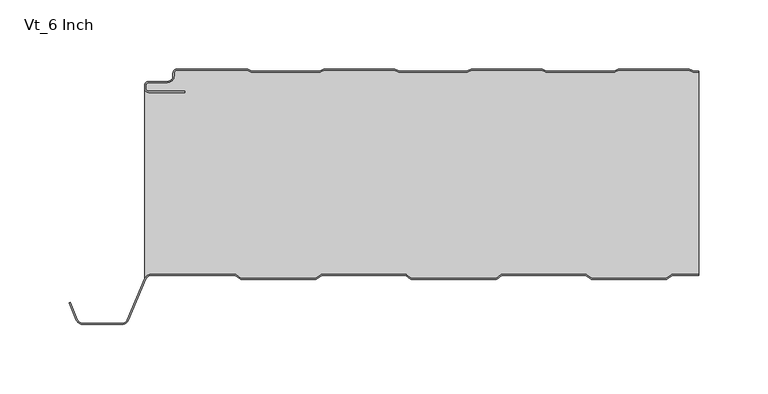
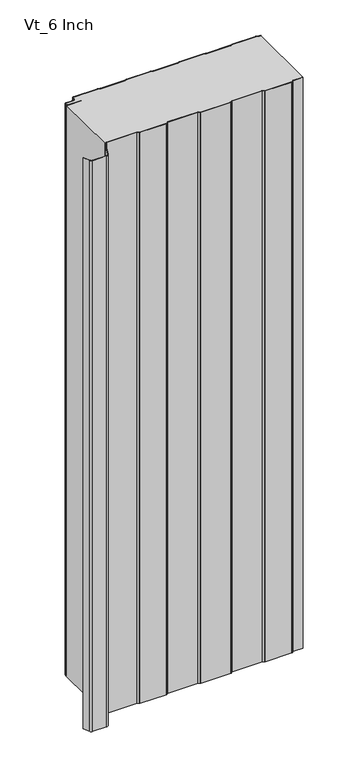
"""IFC4 building model written with IfcOpenShell, lengths in millimetres: plate geometry, AWIP_R18_CP_HR3_Vt_Roof Panel : Vt_6 Inch."""

import ifcopenshell
import ifcopenshell.guid

model = None  # the IFC model being written
_history = None  # IfcOwnerHistory: only IFC2X3 demands one
_inside = {}  # id of a spatial element -> (the spatial element, [elements in it])
_under = {}  # id of a project, library or spatial element -> (it, [spatial elements below it])
_declared = {}  # id of a project -> (the project, [libraries it declares])
_typed = {}  # id of a type object -> (the type object, [elements of that type])
_made_of = {}  # id of a material, layer set ... -> (it, [elements and type objects made of it])


def new_model(schema):
    """Start an empty IFC model of exactly this schema.

    Asked for "IFC4X3", IfcOpenShell would pick the latest addendum, in which some entities
    have other attributes; the version numbers below select the first issue.
    IFC2X3 requires an IfcOwnerHistory on every rooted entity: one is made here for all.
    """
    global model, _history
    if schema == "IFC4X3":
        model = ifcopenshell.file(schema_version=(4, 3, 0, 0))
    else:
        model = ifcopenshell.file(schema=schema)
    _inside.clear()
    _under.clear()
    _declared.clear()
    _typed.clear()
    _made_of.clear()
    _history = None
    if model.schema == "IFC2X3":
        org = make("IfcOrganization", Name="unknown")
        user = make(
            "IfcPersonAndOrganization",
            ThePerson=make("IfcPerson", FamilyName="unknown"),
            TheOrganization=org,
        )
        app = make(
            "IfcApplication",
            ApplicationDeveloper=org,
            Version="unknown",
            ApplicationFullName="unknown",
            ApplicationIdentifier="unknown",
        )
        _history = make(
            "IfcOwnerHistory",
            OwningUser=user,
            OwningApplication=app,
            ChangeAction="ADDED",
            CreationDate=0,
        )
    return model


def make(cls, **values):
    """One entity of the class cls with the attributes given. An attribute that is None is left unset."""
    return model.create_entity(
        cls, **{name: value for name, value in values.items() if value is not None}
    )


def rooted(cls, **values):
    """An entity with a GlobalId (a new one), such as an element, a storey or a relation."""
    return make(cls, GlobalId=ifcopenshell.guid.new(), OwnerHistory=_history, **values)


def si_unit(unit_type, name, prefix=None):
    """IfcSIUnit, for example si_unit("LENGTHUNIT", "METRE", prefix="MILLI")."""
    return make("IfcSIUnit", UnitType=unit_type, Prefix=prefix, Name=name)


def assignment(units):
    """IfcUnitAssignment: the units of a project."""
    return None if units is None else make("IfcUnitAssignment", Units=units)


def point(xyz):
    """IfcCartesianPoint."""
    return None if xyz is None else make("IfcCartesianPoint", Coordinates=xyz)


def direction(xyz):
    """IfcDirection."""
    return None if xyz is None else make("IfcDirection", DirectionRatios=xyz)


def frame(location, z_axis=None, x_axis=None):
    """IfcAxis2Placement3D, a coordinate frame: its origin and axes. An axis left out is left unset."""
    return make(
        "IfcAxis2Placement3D",
        Location=point(location),
        Axis=direction(z_axis),
        RefDirection=direction(x_axis),
    )


def frame_2d(location, x_axis=None):
    """IfcAxis2Placement2D, a coordinate frame in the plane: its origin and x axis."""
    return make(
        "IfcAxis2Placement2D", Location=point(location), RefDirection=direction(x_axis)
    )


def origin():
    """The frame at (0, 0, 0) with its axes left unset."""
    return frame((0.0, 0.0, 0.0))


def origin_with_axes():
    """The frame at (0, 0, 0) with the z axis (0, 0, 1) and the x axis (1, 0, 0) written out."""
    return frame((0.0, 0.0, 0.0), z_axis=(0.0, 0.0, 1.0), x_axis=(1.0, 0.0, 0.0))


def place(relative_to, where):
    """IfcLocalPlacement: puts the frame where relative to a parent placement (None: the world)."""
    return make(
        "IfcLocalPlacement", PlacementRelTo=relative_to, RelativePlacement=where
    )


def context(
    kind, dimensions, precision=None, world=None, true_north=None, identifier=None
):
    """IfcGeometricRepresentationContext, for example the 3D "Model" context."""
    return make(
        "IfcGeometricRepresentationContext",
        ContextIdentifier=identifier,
        ContextType=kind,
        CoordinateSpaceDimension=dimensions,
        Precision=precision,
        WorldCoordinateSystem=world,
        TrueNorth=true_north,
    )


def project(units=None, contexts=None):
    """IfcProject with its units and contexts."""
    return rooted(
        "IfcProject",
        Name="project",
        RepresentationContexts=contexts,
        UnitsInContext=assignment(units),
    )


def spatial(cls, under=None, at=None, **own):
    """A site, building, storey or space (cls), placed at a placement, below another one or the project."""
    s = rooted(cls, ObjectPlacement=at, **own)
    if under is not None:
        _under.setdefault(under.id(), (under, []))[1].append(s)
    return s


def polyline(points):
    """IfcPolyline through the points."""
    return make("IfcPolyline", Points=[point(p) for p in points])


def circle_curve(where, radius):
    """IfcCircle in the frame where."""
    return make("IfcCircle", Position=where, Radius=radius)


def trimmed(basis, trim1, trim2, sense, master):
    """IfcTrimmedCurve: the piece of a basis curve between two trims."""
    return make(
        "IfcTrimmedCurve",
        BasisCurve=basis,
        Trim1=trim1,
        Trim2=trim2,
        SenseAgreement=sense,
        MasterRepresentation=master,
    )


def segment(curve, same_sense, transition):
    """IfcCompositeCurveSegment."""
    return make(
        "IfcCompositeCurveSegment",
        Transition=transition,
        SameSense=same_sense,
        ParentCurve=curve,
    )


def composite_curve(segments, self_intersect=None):
    """IfcCompositeCurve: segments joined end to end."""
    return make("IfcCompositeCurve", Segments=segments, SelfIntersect=self_intersect)


def outline(outer, holes=None, kind="AREA"):
    """IfcArbitraryClosedProfileDef: a profile drawn as a closed curve; with holes, ...WithVoids."""
    if holes is None:
        return make("IfcArbitraryClosedProfileDef", ProfileType=kind, OuterCurve=outer)
    return make(
        "IfcArbitraryProfileDefWithVoids",
        ProfileType=kind,
        OuterCurve=outer,
        InnerCurves=holes,
    )


def extrude(swept, where, along, depth):
    """IfcExtrudedAreaSolid: the profile swept, set in the frame where, extruded along a direction by depth."""
    return make(
        "IfcExtrudedAreaSolid",
        SweptArea=swept,
        Position=where,
        ExtrudedDirection=direction(along),
        Depth=depth,
    )


def shape(context_of_items, identifier, shape_type, items):
    """IfcShapeRepresentation: the items that make up one representation, for example the "Body"."""
    return make(
        "IfcShapeRepresentation",
        ContextOfItems=context_of_items,
        RepresentationIdentifier=identifier,
        RepresentationType=shape_type,
        Items=items,
    )


def source(mapping_origin, context_of_items, identifier, shape_type, items):
    """IfcRepresentationMap: a shape defined once, which mapped items show again and again."""
    return make(
        "IfcRepresentationMap",
        MappingOrigin=mapping_origin,
        MappedRepresentation=shape(context_of_items, identifier, shape_type, items),
    )


def transform(
    local_origin,
    x_axis=None,
    y_axis=None,
    z_axis=None,
    scale=None,
    scale2=None,
    scale3=None,
    uniform=True,
):
    """IfcCartesianTransformationOperator3D, or its non-uniform kind. x_axis, y_axis, z_axis: its Axis1, 2, 3."""
    if uniform:
        return make(
            "IfcCartesianTransformationOperator3D",
            Axis1=direction(x_axis),
            Axis2=direction(y_axis),
            LocalOrigin=point(local_origin),
            Scale=scale,
            Axis3=direction(z_axis),
        )
    return make(
        "IfcCartesianTransformationOperator3DnonUniform",
        Axis1=direction(x_axis),
        Axis2=direction(y_axis),
        LocalOrigin=point(local_origin),
        Scale=scale,
        Axis3=direction(z_axis),
        Scale2=scale2,
        Scale3=scale3,
    )


def mapped(mapping_source, mapping_target):
    """IfcMappedItem: shows the shape of a source again, moved by a transform."""
    return make(
        "IfcMappedItem", MappingSource=mapping_source, MappingTarget=mapping_target
    )


def made_of(thing, what):
    """Note that an element or type object is made of a material, layer set ...; save() writes the relation."""
    if what is not None:
        _made_of.setdefault(what.id(), (what, []))[1].append(thing)
    return thing


def element(
    cls,
    number,
    at=None,
    inside=None,
    cuts=None,
    type_object=None,
    material=None,
    context=None,
    identifier="Body",
    shape_type=None,
    held_by="IfcProductDefinitionShape",
    body=None,
    shapes=None,
    **own,
):
    """One element of the class cls, such as IfcWall. Its Tag is "e" and its number.

    at: its placement. inside: the storey or other place that contains it. cuts: it is an
    opening in that element (IfcRelVoidsElement). A single representation is given by context,
    identifier, shape_type and body (its items); several are given by shapes. held_by: the class
    of the entity that holds the representations. save() writes the other relations.
    """
    e = rooted(cls, Tag="e%d" % number, ObjectPlacement=at, **own)
    if body is not None:
        shapes = [shape(context, identifier, shape_type, body)]
    if shapes is not None:
        e.Representation = make(held_by, Representations=shapes)
    if inside is not None:
        _inside.setdefault(inside.id(), (inside, []))[1].append(e)
    if cuts is not None:
        rooted(
            "IfcRelVoidsElement", RelatingBuildingElement=cuts, RelatedOpeningElement=e
        )
    if type_object is not None:
        _typed.setdefault(type_object.id(), (type_object, []))[1].append(e)
    return made_of(e, material)


def aggregate(whole, parts):
    """IfcRelAggregates: a whole, such as a stair, and the parts it consists of."""
    return rooted("IfcRelAggregates", RelatingObject=whole, RelatedObjects=parts)


def save(model, path):
    """Write the relations noted so far, then the file.

    IfcRelAggregates (storeys below a building ...), IfcRelContainedInSpatialStructure (elements
    in a storey), IfcRelDefinesByType, IfcRelAssociatesMaterial and IfcRelDeclares: one each for
    every whole, place, type object, material and project.
    """
    for whole, parts in _under.values():
        aggregate(whole, parts)
    for where, things in _inside.values():
        rooted(
            "IfcRelContainedInSpatialStructure",
            RelatedElements=things,
            RelatingStructure=where,
        )
    for kind, things in _typed.values():
        rooted("IfcRelDefinesByType", RelatedObjects=things, RelatingType=kind)
    for what, things in _made_of.values():
        rooted("IfcRelAssociatesMaterial", RelatedObjects=things, RelatingMaterial=what)
    for by, libraries in _declared.values():
        rooted("IfcRelDeclares", RelatingContext=by, RelatedDefinitions=libraries)
    model.write(path)


def plane_surface(at):
    """IfcPlane: the flat surface through the origin of the frame at, square to its z axis."""
    return make("IfcPlane", Position=at)


def cylinder_surface(at, radius):
    """IfcCylindricalSurface: all points at the distance radius from the z axis of the frame at."""
    return make("IfcCylindricalSurface", Position=at, Radius=radius)


def revolved_surface(curve, axis_point, axis_direction):
    """IfcSurfaceOfRevolution: the curve turned about the line through axis_point along axis_direction."""
    return make(
        "IfcSurfaceOfRevolution",
        SweptCurve=make("IfcArbitraryOpenProfileDef", ProfileType="CURVE", Curve=curve),
        AxisPosition=make("IfcAxis1Placement", Location=point(axis_point), Axis=direction(axis_direction)),
    )


def advanced_brep(points, edges, surfaces, faces):
    """IfcAdvancedBrep: a solid bounded by faces that lie on surfaces and meet in shared edges.

    An edge is (start, end): straight between two places in points (the first is 0);
    or (start, end, curve); or (start, end, curve, False) where it runs against its curve.
    A face is (place in surfaces, loops), or (place, loops, False) where it looks against
    its surface's normal. A loop lists edges by number (the first is 1), with a minus sign
    where the edge is run from its end to its start. The first loop is the outer one.
    """
    corners = [point(p) for p in points]
    vertices = [make("IfcVertexPoint", VertexGeometry=c) for c in corners]
    made = []
    for start, end, *more in edges:
        made.append(
            make(
                "IfcEdgeCurve",
                EdgeStart=vertices[start],
                EdgeEnd=vertices[end],
                EdgeGeometry=more[0] if more else make("IfcPolyline", Points=[corners[start], corners[end]]),
                SameSense=more[1] if len(more) > 1 else True,
            )
        )
    hull = []
    for where, loops, *sense in faces:
        bounds = []
        for j, loop in enumerate(loops):
            ring = [make("IfcOrientedEdge", EdgeElement=made[abs(k) - 1], Orientation=k > 0) for k in loop]
            bounds.append(
                make(
                    "IfcFaceOuterBound" if j == 0 else "IfcFaceBound",
                    Bound=make("IfcEdgeLoop", EdgeList=ring),
                    Orientation=True,
                )
            )
        hull.append(make("IfcAdvancedFace", Bounds=bounds, FaceSurface=surfaces[where], SameSense=sense[0] if sense else True))
    return make("IfcAdvancedBrep", Outer=make("IfcClosedShell", CfsFaces=hull))


def vt_6_inch_240a4d56(model_context):
    return source(origin(), model_context, "Body", "SolidModel", [
        extrude(outline(composite_curve([segment(polyline([(212.4037368, -1.5), (215.9042607, -1.5), (215.9042607, -2.3), (212.4037368, -2.3)]), True, "CONTINUOUS"), segment(trimmed(circle_curve(frame_2d((212.4037368, 1.0)), 3.3), [point((212.4037368, -2.3))], [point((211.0949824, -2.0293831))], False, "CARTESIAN"), True, "CONTINUOUS"), segment(polyline([(211.0949824, -2.0293831), (208.7048832, -0.9968123)]), True, "CONTINUOUS"), segment(trimmed(circle_curve(frame_2d((207.7530619, -3.2)), 2.4), [point((208.7048832, -0.9968123))], [point((207.7530619, -0.8))], True, "CARTESIAN"), True, "CONTINUOUS"), segment(polyline([(207.7530619, -0.8), (158.8384168, -0.8)]), True, "CONTINUOUS"), segment(trimmed(circle_curve(frame_2d((158.8384168, -3.2)), 2.4), [point((158.8384168, -0.8))], [point((157.8865954, -0.9968123))], True, "CARTESIAN"), True, "CONTINUOUS"), segment(polyline([(157.8865954, -0.9968123), (155.4964962, -2.0293831)]), True, "CONTINUOUS"), segment(trimmed(circle_curve(frame_2d((154.1877419, 1.0)), 3.3), [point((155.4964962, -2.0293831))], [point((154.1877419, -2.3))], False, "CARTESIAN"), True, "CONTINUOUS"), segment(polyline([(154.1877419, -2.3), (105.8037368, -2.3)]), True, "CONTINUOUS"), segment(trimmed(circle_curve(frame_2d((105.8037368, 1.0)), 3.3), [point((105.8037368, -2.3))], [point((104.4949824, -2.0293831))], False, "CARTESIAN"), True, "CONTINUOUS"), segment(polyline([(104.4949824, -2.0293831), (102.1048832, -0.9968123)]), True, "CONTINUOUS"), segment(trimmed(circle_curve(frame_2d((101.1530619, -3.2)), 2.4), [point((102.1048832, -0.9968123))], [point((101.1530619, -0.8))], True, "CARTESIAN"), True, "CONTINUOUS"), segment(polyline([(101.1530619, -0.8), (52.2384168, -0.8)]), True, "CONTINUOUS"), segment(trimmed(circle_curve(frame_2d((52.2384168, -3.2)), 2.4), [point((52.2384168, -0.8))], [point((51.2865954, -0.9968123))], True, "CARTESIAN"), True, "CONTINUOUS"), segment(polyline([(51.2865954, -0.9968123), (48.8964962, -2.0293831)]), True, "CONTINUOUS"), segment(trimmed(circle_curve(frame_2d((47.5877419, 1.0)), 3.3), [point((48.8964962, -2.0293831))], [point((47.5877419, -2.3))], False, "CARTESIAN"), True, "CONTINUOUS"), segment(polyline([(47.5877419, -2.3), (-0.7962632, -2.3)]), True, "CONTINUOUS"), segment(trimmed(circle_curve(frame_2d((-0.7962632, 1.0)), 3.3), [point((-0.7962632, -2.3))], [point((-2.1050176, -2.0293831))], False, "CARTESIAN"), True, "CONTINUOUS"), segment(polyline([(-2.1050176, -2.0293831), (-4.4951168, -0.9968123)]), True, "CONTINUOUS"), segment(trimmed(circle_curve(frame_2d((-5.4469381, -3.2)), 2.4), [point((-4.4951168, -0.9968123))], [point((-5.4469381, -0.8))], True, "CARTESIAN"), True, "CONTINUOUS"), segment(polyline([(-5.4469381, -0.8), (-54.3615832, -0.8)]), True, "CONTINUOUS"), segment(trimmed(circle_curve(frame_2d((-54.3615832, -3.2)), 2.4), [point((-54.3615832, -0.8))], [point((-55.3134046, -0.9968123))], True, "CARTESIAN"), True, "CONTINUOUS"), segment(polyline([(-55.3134046, -0.9968123), (-57.7035038, -2.0293831)]), True, "CONTINUOUS"), segment(trimmed(circle_curve(frame_2d((-59.0122581, 1.0)), 3.3), [point((-57.7035038, -2.0293831))], [point((-59.0122581, -2.3))], False, "CARTESIAN"), True, "CONTINUOUS"), segment(polyline([(-59.0122581, -2.3), (-107.3962632, -2.3)]), True, "CONTINUOUS"), segment(trimmed(circle_curve(frame_2d((-107.3962632, 1.0)), 3.3), [point((-107.3962632, -2.3))], [point((-108.7050176, -2.0293831))], False, "CARTESIAN"), True, "CONTINUOUS"), segment(polyline([(-108.7050176, -2.0293831), (-111.0951168, -0.9968123)]), True, "CONTINUOUS"), segment(trimmed(circle_curve(frame_2d((-112.0469381, -3.2)), 2.4), [point((-111.0951168, -0.9968123))], [point((-112.0469381, -0.8))], True, "CARTESIAN"), True, "CONTINUOUS"), segment(polyline([(-112.0469381, -0.8), (-161.8042607, -0.8)]), True, "CONTINUOUS"), segment(trimmed(circle_curve(frame_2d((-161.8042607, -3.0)), 2.2), [point((-161.8042607, -0.8))], [point((-164.0042607, -3.0))], True, "CARTESIAN"), True, "CONTINUOUS"), segment(polyline([(-164.0042607, -3.0), (-164.0042607, -5.0)]), True, "CONTINUOUS"), segment(trimmed(circle_curve(frame_2d((-168.8042607, -5.0)), 4.8), [point((-164.0042607, -5.0))], [point((-168.8042607, -9.8))], False, "CARTESIAN"), True, "CONTINUOUS"), segment(polyline([(-168.8042607, -9.8), (-182.3200708, -9.8)]), True, "CONTINUOUS"), segment(trimmed(circle_curve(frame_2d((-182.3200708, -12.0)), 2.2), [point((-182.3200708, -9.8))], [point((-184.5200708, -12.0))], True, "CARTESIAN"), True, "CONTINUOUS"), segment(polyline([(-184.5200708, -12.0), (-184.5200708, -14.0)]), True, "CONTINUOUS"), segment(trimmed(circle_curve(frame_2d((-182.3200708, -14.0)), 2.2), [point((-184.5200708, -14.0))], [point((-182.3200708, -16.2))], True, "CARTESIAN"), True, "CONTINUOUS"), segment(polyline([(-182.3200708, -16.2), (-156.3790289, -16.2), (-156.3790289, -17.0), (-182.3200708, -17.0)]), True, "CONTINUOUS"), segment(trimmed(circle_curve(frame_2d((-182.3200708, -14.0)), 3.0), [point((-182.3200708, -17.0))], [point((-185.3200708, -14.0))], False, "CARTESIAN"), True, "CONTINUOUS"), segment(polyline([(-185.3200708, -14.0), (-185.3200708, -12.0)]), True, "CONTINUOUS"), segment(trimmed(circle_curve(frame_2d((-182.3200708, -12.0)), 3.0), [point((-185.3200708, -12.0))], [point((-182.3200708, -9.0))], False, "CARTESIAN"), True, "CONTINUOUS"), segment(polyline([(-182.3200708, -9.0), (-168.8042607, -9.0)]), True, "CONTINUOUS"), segment(trimmed(circle_curve(frame_2d((-168.8042607, -5.0)), 4.0), [point((-168.8042607, -9.0))], [point((-164.8042607, -5.0))], True, "CARTESIAN"), True, "CONTINUOUS"), segment(polyline([(-164.8042607, -5.0), (-164.8042607, -3.0)]), True, "CONTINUOUS"), segment(trimmed(circle_curve(frame_2d((-161.8042607, -3.0)), 3.0), [point((-164.8042607, -3.0))], [point((-161.8042607, 0.0))], False, "CARTESIAN"), True, "CONTINUOUS"), segment(polyline([(-161.8042607, 0.0), (-112.0469381, 0.0)]), True, "CONTINUOUS"), segment(trimmed(circle_curve(frame_2d((-112.0469381, -3.2)), 3.2), [point((-112.0469381, 0.0))], [point((-110.777843, -0.2624164))], False, "CARTESIAN"), True, "CONTINUOUS"), segment(polyline([(-110.777843, -0.2624164), (-108.3877438, -1.2949872)]), True, "CONTINUOUS"), segment(trimmed(circle_curve(frame_2d((-107.3962632, 1.0)), 2.5), [point((-108.3877438, -1.2949872))], [point((-107.3962632, -1.5))], True, "CARTESIAN"), True, "CONTINUOUS"), segment(polyline([(-107.3962632, -1.5), (-59.0122581, -1.5)]), True, "CONTINUOUS"), segment(trimmed(circle_curve(frame_2d((-59.0122581, 1.0)), 2.5), [point((-59.0122581, -1.5))], [point((-58.0207775, -1.2949872))], True, "CARTESIAN"), True, "CONTINUOUS"), segment(polyline([(-58.0207775, -1.2949872), (-55.6306783, -0.2624164)]), True, "CONTINUOUS"), segment(trimmed(circle_curve(frame_2d((-54.3615832, -3.2)), 3.2), [point((-55.6306783, -0.2624164))], [point((-54.3615832, 0.0))], False, "CARTESIAN"), True, "CONTINUOUS"), segment(polyline([(-54.3615832, 0.0), (-5.4469381, 0.0)]), True, "CONTINUOUS"), segment(trimmed(circle_curve(frame_2d((-5.4469381, -3.2)), 3.2), [point((-5.4469381, 0.0))], [point((-4.177843, -0.2624164))], False, "CARTESIAN"), True, "CONTINUOUS"), segment(polyline([(-4.177843, -0.2624164), (-1.7877438, -1.2949872)]), True, "CONTINUOUS"), segment(trimmed(circle_curve(frame_2d((-0.7962632, 1.0)), 2.5), [point((-1.7877438, -1.2949872))], [point((-0.7962632, -1.5))], True, "CARTESIAN"), True, "CONTINUOUS"), segment(polyline([(-0.7962632, -1.5), (47.5877419, -1.5)]), True, "CONTINUOUS"), segment(trimmed(circle_curve(frame_2d((47.5877419, 1.0)), 2.5), [point((47.5877419, -1.5))], [point((48.5792225, -1.2949872))], True, "CARTESIAN"), True, "CONTINUOUS"), segment(polyline([(48.5792225, -1.2949872), (50.9693217, -0.2624164)]), True, "CONTINUOUS"), segment(trimmed(circle_curve(frame_2d((52.2384168, -3.2)), 3.2), [point((50.9693217, -0.2624164))], [point((52.2384168, 0.0))], False, "CARTESIAN"), True, "CONTINUOUS"), segment(polyline([(52.2384168, 0.0), (101.1530619, 0.0)]), True, "CONTINUOUS"), segment(trimmed(circle_curve(frame_2d((101.1530619, -3.2)), 3.2), [point((101.1530619, 0.0))], [point((102.422157, -0.2624164))], False, "CARTESIAN"), True, "CONTINUOUS"), segment(polyline([(102.422157, -0.2624164), (104.8122562, -1.2949872)]), True, "CONTINUOUS"), segment(trimmed(circle_curve(frame_2d((105.8037368, 1.0)), 2.5), [point((104.8122562, -1.2949872))], [point((105.8037368, -1.5))], True, "CARTESIAN"), True, "CONTINUOUS"), segment(polyline([(105.8037368, -1.5), (154.1877419, -1.5)]), True, "CONTINUOUS"), segment(trimmed(circle_curve(frame_2d((154.1877419, 1.0)), 2.5), [point((154.1877419, -1.5))], [point((155.1792225, -1.2949872))], True, "CARTESIAN"), True, "CONTINUOUS"), segment(polyline([(155.1792225, -1.2949872), (157.5693217, -0.2624164)]), True, "CONTINUOUS"), segment(trimmed(circle_curve(frame_2d((158.8384168, -3.2)), 3.2), [point((157.5693217, -0.2624164))], [point((158.8384168, 0.0))], False, "CARTESIAN"), True, "CONTINUOUS"), segment(polyline([(158.8384168, 0.0), (207.7530619, 0.0)]), True, "CONTINUOUS"), segment(trimmed(circle_curve(frame_2d((207.7530619, -3.2)), 3.2), [point((207.7530619, 0.0))], [point((209.022157, -0.2624164))], False, "CARTESIAN"), True, "CONTINUOUS"), segment(polyline([(209.022157, -0.2624164), (211.4122562, -1.2949872)]), True, "CONTINUOUS"), segment(trimmed(circle_curve(frame_2d((212.4037368, 1.0)), 2.5), [point((211.4122562, -1.2949872))], [point((212.4037368, -1.5))], True, "CARTESIAN"), True, "CONTINUOUS")], self_intersect=False)), origin_with_axes(), (0.0, 0.0, 1.0), 1219.2),
        extrude(outline(composite_curve([segment(polyline([(-119.1161836, -149.0621793), (-115.604049, -151.5999997), (-61.4011687, -151.5999997), (-57.8890342, -149.0621793)]), True, "CONTINUOUS"), segment(trimmed(circle_curve(frame_2d((-57.1276444, -150.1158802)), 1.3), [point((-57.8890342, -149.0621793))], [point((-57.1276444, -148.8158802))], False, "CARTESIAN"), True, "CONTINUOUS"), segment(polyline([(-57.1276444, -148.8158802), (3.3684818, -148.8158802)]), True, "CONTINUOUS"), segment(trimmed(circle_curve(frame_2d((3.3684818, -150.1158802)), 1.3), [point((3.3684818, -148.8158802))], [point((4.1298717, -149.0621793))], False, "CARTESIAN"), True, "CONTINUOUS"), segment(polyline([(4.1298717, -149.0621793), (7.6420063, -151.5999997), (69.1027521, -151.5999997), (72.6148867, -149.0621794)]), True, "CONTINUOUS"), segment(trimmed(circle_curve(frame_2d((73.3762764, -150.1158801)), 1.2999998), [point((72.6148867, -149.0621794))], [point((73.3762764, -148.8158803))], False, "CARTESIAN"), True, "CONTINUOUS"), segment(polyline([(73.3762764, -148.8158803), (133.8724069, -148.8158803)]), True, "CONTINUOUS"), segment(trimmed(circle_curve(frame_2d((133.8724069, -150.1158803)), 1.3), [point((133.8724069, -148.8158803))], [point((134.6337968, -149.0621795))], False, "CARTESIAN"), True, "CONTINUOUS"), segment(polyline([(134.6337968, -149.0621795), (138.1459308, -151.5999997), (192.3488119, -151.5999997), (195.8609464, -149.0621794)]), True, "CONTINUOUS"), segment(trimmed(circle_curve(frame_2d((196.6223362, -150.1158803)), 1.3), [point((195.8609464, -149.0621794))], [point((196.6223362, -148.8158803))], False, "CARTESIAN"), True, "CONTINUOUS"), segment(polyline([(196.6223362, -148.8158803), (215.9042607, -148.8158803), (215.9042607, -149.6158801), (196.4605931, -149.6158801), (193.0008983, -152.1158084)]), True, "CONTINUOUS"), segment(trimmed(circle_curve(frame_2d((192.1223715, -150.8999997)), 1.5), [point((193.0008983, -152.1158084))], [point((192.1223715, -152.3999997))], False, "CARTESIAN"), True, "CONTINUOUS"), segment(polyline([(192.1223715, -152.3999997), (138.3723716, -152.4)]), True, "CONTINUOUS"), segment(trimmed(circle_curve(frame_2d((138.3723716, -150.8999997)), 1.5000003), [point((138.3723716, -152.4))], [point((137.4938446, -152.1158086))], False, "CARTESIAN"), True, "CONTINUOUS"), segment(polyline([(137.4938446, -152.1158086), (134.03415, -149.6158803), (73.2145333, -149.6158803), (69.7548385, -152.1158084)]), True, "CONTINUOUS"), segment(trimmed(circle_curve(frame_2d((68.8763118, -150.8999997)), 1.5), [point((69.7548385, -152.1158084))], [point((68.8753404, -152.3999994))], False, "CARTESIAN"), True, "CONTINUOUS"), segment(polyline([(68.8753404, -152.3999994), (7.8684462, -152.3999994)]), True, "CONTINUOUS"), segment(trimmed(circle_curve(frame_2d((7.8684462, -150.8999994)), 1.5), [point((7.8684462, -152.3999994))], [point((6.9899195, -152.1158081))], False, "CARTESIAN"), True, "CONTINUOUS"), segment(polyline([(6.9899195, -152.1158081), (3.5302251, -149.6158803), (-57.2893875, -149.6158803), (-60.7490824, -152.1158084)]), True, "CONTINUOUS"), segment(trimmed(circle_curve(frame_2d((-61.6276091, -150.8999997)), 1.5), [point((-60.7490824, -152.1158084))], [point((-61.6285805, -152.3999994))], False, "CARTESIAN"), True, "CONTINUOUS"), segment(polyline([(-61.6285805, -152.3999994), (-115.3776091, -152.3999994)]), True, "CONTINUOUS"), segment(trimmed(circle_curve(frame_2d((-115.3776091, -150.8999994)), 1.4999999), [point((-115.3776091, -152.3999994))], [point((-116.2561357, -152.1158081))], False, "CARTESIAN"), True, "CONTINUOUS"), segment(polyline([(-116.2561357, -152.1158081), (-119.7158301, -149.6158804), (-180.6614903, -149.6158804)]), True, "CONTINUOUS"), segment(trimmed(circle_curve(frame_2d((-180.6614903, -153.6158801)), 3.9999997), [point((-180.6614903, -149.6158804))], [point((-184.3435202, -152.0529809))], True, "CARTESIAN"), True, "CONTINUOUS"), segment(polyline([(-184.3435202, -152.0529809), (-197.0845357, -182.0695045)]), True, "CONTINUOUS"), segment(trimmed(circle_curve(frame_2d((-201.6870734, -180.1158804)), 5.0), [point((-197.0845357, -182.0695045))], [point((-201.6870734, -185.1158804))], False, "CARTESIAN"), True, "CONTINUOUS"), segment(polyline([(-201.6870734, -185.1158804), (-230.0681655, -185.1158804)]), True, "CONTINUOUS"), segment(trimmed(circle_curve(frame_2d((-230.0681655, -180.1158804)), 5.0), [point((-230.0681655, -185.1158804))], [point((-234.6707048, -182.0695006))], False, "CARTESIAN"), True, "CONTINUOUS"), segment(polyline([(-234.6707048, -182.0695006), (-240.0199293, -169.4672482), (-239.283523, -169.154669), (-233.9342985, -181.7569214)]), True, "CONTINUOUS"), segment(trimmed(circle_curve(frame_2d((-230.0681655, -180.1158804)), 4.2), [point((-233.9342985, -181.7569214))], [point((-230.0681655, -184.3158804))], True, "CARTESIAN"), True, "CONTINUOUS"), segment(polyline([(-230.0681655, -184.3158804), (-201.6870734, -184.3158804)]), True, "CONTINUOUS"), segment(trimmed(circle_curve(frame_2d((-201.6870734, -180.1158804)), 4.2), [point((-201.6870734, -184.3158804))], [point((-197.8209418, -181.7569246))], True, "CARTESIAN"), True, "CONTINUOUS"), segment(polyline([(-197.8209418, -181.7569246), (-185.0799264, -151.740401)]), True, "CONTINUOUS"), segment(trimmed(circle_curve(frame_2d((-180.6614903, -153.6158801)), 4.7999999), [point((-185.0799264, -151.740401))], [point((-180.6614903, -148.8158802))], False, "CARTESIAN"), True, "CONTINUOUS"), segment(polyline([(-180.6614903, -148.8158802), (-119.8775734, -148.8158802)]), True, "CONTINUOUS"), segment(trimmed(circle_curve(frame_2d((-119.8775734, -150.1158802)), 1.3), [point((-119.8775734, -148.8158802))], [point((-119.1161836, -149.0621793))], False, "CARTESIAN"), True, "CONTINUOUS")], self_intersect=False)), origin_with_axes(), (0.0, 0.0, 1.0), 1219.2),
        advanced_brep(
        [(-180.6614903, -148.8158805, 1219.2), (-119.8775734, -148.8158805, 1219.2), (-119.1161836, -149.0621797, 1219.2), (-115.604049, -151.6, 1219.2), (-61.4011687, -151.6, 1219.2), (-57.8890342, -149.0621797, 1219.2), (-57.1276444, -148.8158805, 1219.2), (3.3684818, -148.8158805, 1219.2), (4.1298717, -149.0621797, 1219.2), (7.6420063, -151.6000001, 1219.2), (69.1027521, -151.6000001, 1219.2), (72.6148867, -149.0621797, 1219.2), (73.3762764, -148.8158806, 1219.2), (133.8724069, -148.8158806, 1219.2), (134.6337968, -149.0621798, 1219.2), (138.1459308, -151.6000001, 1219.2), (192.3488119, -151.6000001, 1219.2), (195.8609464, -149.0621797, 1219.2), (196.6223362, -148.8158806, 1219.2), (215.9042607, -148.8158806, 1219.2), (215.9042607, -2.3, 1219.2), (212.4037368, -2.3, 1219.2), (211.0949824, -2.0293831, 1219.2), (208.7048832, -0.9968123, 1219.2), (207.7530619, -0.8, 1219.2), (158.8384168, -0.8, 1219.2), (157.8865954, -0.9968123, 1219.2), (155.4964962, -2.0293831, 1219.2), (154.1877419, -2.3, 1219.2), (105.8037368, -2.3, 1219.2), (104.4949824, -2.0293831, 1219.2), (102.1048832, -0.9968123, 1219.2), (101.1530619, -0.8, 1219.2), (52.2384168, -0.8, 1219.2), (51.2865954, -0.9968123, 1219.2), (48.8964962, -2.0293831, 1219.2), (47.5877419, -2.3, 1219.2), (-0.7962632, -2.3, 1219.2), (-2.1050176, -2.0293831, 1219.2), (-4.4951168, -0.9968123, 1219.2), (-5.4469381, -0.8, 1219.2), (-54.3615832, -0.8, 1219.2), (-55.3134046, -0.9968123, 1219.2), (-57.7035038, -2.0293831, 1219.2), (-59.0122581, -2.3, 1219.2), (-107.3962632, -2.3, 1219.2), (-108.7050176, -2.0293831, 1219.2), (-111.0951168, -0.9968123, 1219.2), (-112.0469381, -0.8, 1219.2), (-161.8042607, -0.8, 1219.2), (-164.0042607, -3.0, 1219.2), (-164.0042607, -5.0, 1219.2), (-168.8042607, -9.8, 1219.2), (-182.3200708, -9.8, 1219.2), (-184.5200708, -12.0, 1219.2), (-184.5200708, -14.0, 1219.2), (-182.3200708, -16.2, 1219.2), (-156.3790289, -16.2, 1219.2), (-156.3790289, -17.0, 1219.2), (-182.3200708, -17.0, 1219.2), (-185.3200708, -14.0, 1219.2), (-185.3370174, -152.5298575, 1219.2), (-180.6614903, -148.8158805, 0.0), (-185.3370174, -152.5298575, 0.0), (-185.3370174, -14.0, 0.0), (-182.3200708, -17.0, 0.0), (-156.3790289, -17.0, 0.0), (-156.3790289, -16.2, 0.0), (-182.3200708, -16.2, 0.0), (-184.5200708, -14.0, 0.0), (-184.5200708, -12.0, 0.0), (-182.3200708, -9.8, 0.0), (-168.8042607, -9.8, 0.0), (-164.0042607, -5.0, 0.0), (-164.0042607, -3.0, 0.0), (-161.8042607, -0.8, 0.0), (-112.0469381, -0.8, 0.0), (-111.0951168, -0.9968123, 0.0), (-108.7050176, -2.0293831, 0.0), (-107.3962632, -2.3, 0.0), (-59.0122581, -2.3, 0.0), (-57.7035038, -2.0293831, 0.0), (-55.3134046, -0.9968123, 0.0), (-54.3615832, -0.8, 0.0), (-5.4469381, -0.8, 0.0), (-4.4951168, -0.9968123, 0.0), (-2.1050176, -2.0293831, 0.0), (-0.7962632, -2.3, 0.0), (47.5877419, -2.3, 0.0), (48.8964962, -2.0293831, 0.0), (51.2865954, -0.9968123, 0.0), (52.2384168, -0.8, 0.0), (101.1530619, -0.8, 0.0), (102.1048832, -0.9968123, 0.0), (104.4949824, -2.0293831, 0.0), (105.8037368, -2.3, 0.0), (154.1877419, -2.3, 0.0), (155.4964962, -2.0293831, 0.0), (157.8865954, -0.9968123, 0.0), (158.8384168, -0.8, 0.0), (207.7530619, -0.8, 0.0), (208.7048832, -0.9968123, 0.0), (211.0949824, -2.0293831, 0.0), (212.4037368, -2.3, 0.0), (215.9042607, -2.3, 0.0), (215.9042607, -148.8158806, 0.0), (196.6223362, -148.8158806, 0.0), (195.8609464, -149.0621797, 0.0), (192.3488119, -151.6000001, 0.0), (138.1459308, -151.6000001, 0.0), (134.6337968, -149.0621798, 0.0), (133.8724069, -148.8158806, 0.0), (73.3762764, -148.8158806, 0.0), (72.6148867, -149.0621797, 0.0), (69.1027521, -151.6000001, 0.0), (7.6420063, -151.6000001, 0.0), (4.1298717, -149.0621797, 0.0), (3.3684818, -148.8158805, 0.0), (-57.1276444, -148.8158805, 0.0), (-57.8890342, -149.0621797, 0.0), (-61.4011687, -151.6, 0.0), (-115.604049, -151.6, 0.0), (-119.1161836, -149.0621797, 0.0), (-119.8775734, -148.8158805, 0.0)],
        [
            (0, 1),
            (1, 2, circle_curve(frame((-119.8775734, -150.1158805, 1219.2), z_axis=(0.0, 0.0, -1.0), x_axis=(0.0, -1.0, 0.0)), 1.3)),
            (2, 3),
            (3, 4),
            (4, 5),
            (5, 6, circle_curve(frame((-57.1276444, -150.1158805, 1219.2), z_axis=(0.0, 0.0, -1.0), x_axis=(0.0, -1.0, 0.0)), 1.3)),
            (6, 7),
            (7, 8, circle_curve(frame((3.3684818, -150.1158805, 1219.2), z_axis=(0.0, 0.0, -1.0), x_axis=(0.0, -1.0, 0.0)), 1.3)),
            (8, 9),
            (9, 10),
            (10, 11),
            (11, 12, circle_curve(frame((73.3762764, -150.1158804, 1219.2), z_axis=(0.0, 0.0, -1.0), x_axis=(0.0, -1.0, 0.0)), 1.2999998)),
            (12, 13),
            (13, 14, circle_curve(frame((133.8724069, -150.1158806, 1219.2), z_axis=(0.0, 0.0, -1.0), x_axis=(0.0, -1.0, 0.0)), 1.3)),
            (14, 15),
            (15, 16),
            (16, 17),
            (17, 18, circle_curve(frame((196.6223362, -150.1158806, 1219.2), z_axis=(0.0, 0.0, -1.0), x_axis=(0.0, -1.0, 0.0)), 1.3)),
            (18, 19),
            (19, 20),
            (20, 21),
            (21, 22, circle_curve(frame((212.4037368, 1.0, 1219.2), z_axis=(0.0, 0.0, -1.0), x_axis=(0.0, -1.0, 0.0)), 3.3)),
            (22, 23),
            (23, 24, circle_curve(frame((207.7530619, -3.2, 1219.2), z_axis=(0.0, 0.0, 1.0), x_axis=(0.0, -1.0, 0.0)), 2.4)),
            (24, 25),
            (25, 26, circle_curve(frame((158.8384168, -3.2, 1219.2), z_axis=(0.0, 0.0, 1.0), x_axis=(0.0, -1.0, 0.0)), 2.4)),
            (26, 27),
            (27, 28, circle_curve(frame((154.1877419, 1.0, 1219.2), z_axis=(0.0, 0.0, -1.0), x_axis=(0.0, -1.0, 0.0)), 3.3)),
            (28, 29),
            (29, 30, circle_curve(frame((105.8037368, 1.0, 1219.2), z_axis=(0.0, 0.0, -1.0), x_axis=(0.0, -1.0, 0.0)), 3.3)),
            (30, 31),
            (31, 32, circle_curve(frame((101.1530619, -3.2, 1219.2), z_axis=(0.0, 0.0, 1.0), x_axis=(0.0, -1.0, 0.0)), 2.4)),
            (32, 33),
            (33, 34, circle_curve(frame((52.2384168, -3.2, 1219.2), z_axis=(0.0, 0.0, 1.0), x_axis=(0.0, -1.0, 0.0)), 2.4)),
            (34, 35),
            (35, 36, circle_curve(frame((47.5877419, 1.0, 1219.2), z_axis=(0.0, 0.0, -1.0), x_axis=(0.0, -1.0, 0.0)), 3.3)),
            (36, 37),
            (37, 38, circle_curve(frame((-0.7962632, 1.0, 1219.2), z_axis=(0.0, 0.0, -1.0), x_axis=(0.0, -1.0, 0.0)), 3.3)),
            (38, 39),
            (39, 40, circle_curve(frame((-5.4469381, -3.2, 1219.2), z_axis=(0.0, 0.0, 1.0), x_axis=(0.0, -1.0, 0.0)), 2.4)),
            (40, 41),
            (41, 42, circle_curve(frame((-54.3615832, -3.2, 1219.2), z_axis=(0.0, 0.0, 1.0), x_axis=(0.0, -1.0, 0.0)), 2.4)),
            (42, 43),
            (43, 44, circle_curve(frame((-59.0122581, 1.0, 1219.2), z_axis=(0.0, 0.0, -1.0), x_axis=(0.0, -1.0, 0.0)), 3.3)),
            (44, 45),
            (45, 46, circle_curve(frame((-107.3962632, 1.0, 1219.2), z_axis=(0.0, 0.0, -1.0), x_axis=(0.0, -1.0, 0.0)), 3.3)),
            (46, 47),
            (47, 48, circle_curve(frame((-112.0469381, -3.2, 1219.2), z_axis=(0.0, 0.0, 1.0), x_axis=(0.0, -1.0, 0.0)), 2.4)),
            (48, 49),
            (49, 50, circle_curve(frame((-161.8042607, -3.0, 1219.2), z_axis=(0.0, 0.0, 1.0), x_axis=(0.0, -1.0, 0.0)), 2.2)),
            (50, 51),
            (51, 52, circle_curve(frame((-168.8042607, -5.0, 1219.2), z_axis=(0.0, 0.0, -1.0), x_axis=(0.0, -1.0, 0.0)), 4.8)),
            (52, 53),
            (53, 54, circle_curve(frame((-182.3200708, -12.0, 1219.2), z_axis=(0.0, 0.0, 1.0), x_axis=(0.0, -1.0, 0.0)), 2.2)),
            (54, 55),
            (55, 56, circle_curve(frame((-182.3200708, -14.0, 1219.2), z_axis=(0.0, 0.0, 1.0), x_axis=(0.0, -1.0, 0.0)), 2.2)),
            (56, 57),
            (57, 58),
            (58, 59),
            (59, 60, circle_curve(frame((-182.3200708, -14.0, 1219.2), z_axis=(0.0, 0.0, -1.0), x_axis=(0.0, -1.0, 0.0)), 3.0)),
            (60, 61),
            (61, 0, circle_curve(frame((-180.6614903, -153.6158804, 1219.2), z_axis=(0.0, 0.0, -1.0), x_axis=(0.0, -1.0, 0.0)), 4.7999999)),
            (62, 63, circle_curve(frame((-180.6614903, -153.6158804, 0.0), z_axis=(0.0, 0.0, 1.0), x_axis=(0.0, -1.0, 0.0)), 4.7999999)),
            (63, 64),
            (64, 65, circle_curve(frame((-182.3200708, -14.0, 0.0), z_axis=(0.0, 0.0, 1.0), x_axis=(0.0, -1.0, 0.0)), 3.0)),
            (65, 66),
            (66, 67),
            (67, 68),
            (68, 69, circle_curve(frame((-182.3200708, -14.0, 0.0), z_axis=(0.0, 0.0, -1.0), x_axis=(0.0, -1.0, 0.0)), 2.2)),
            (69, 70),
            (70, 71, circle_curve(frame((-182.3200708, -12.0, 0.0), z_axis=(0.0, 0.0, -1.0), x_axis=(0.0, -1.0, 0.0)), 2.2)),
            (71, 72),
            (72, 73, circle_curve(frame((-168.8042607, -5.0, 0.0), z_axis=(0.0, 0.0, 1.0), x_axis=(0.0, -1.0, 0.0)), 4.8)),
            (73, 74),
            (74, 75, circle_curve(frame((-161.8042607, -3.0, 0.0), z_axis=(0.0, 0.0, -1.0), x_axis=(0.0, -1.0, 0.0)), 2.2)),
            (75, 76),
            (76, 77, circle_curve(frame((-112.0469381, -3.2, 0.0), z_axis=(0.0, 0.0, -1.0), x_axis=(0.0, -1.0, 0.0)), 2.4)),
            (77, 78),
            (78, 79, circle_curve(frame((-107.3962632, 1.0, 0.0), z_axis=(0.0, 0.0, 1.0), x_axis=(0.0, -1.0, 0.0)), 3.3)),
            (79, 80),
            (80, 81, circle_curve(frame((-59.0122581, 1.0, 0.0), z_axis=(0.0, 0.0, 1.0), x_axis=(0.0, -1.0, 0.0)), 3.3)),
            (81, 82),
            (82, 83, circle_curve(frame((-54.3615832, -3.2, 0.0), z_axis=(0.0, 0.0, -1.0), x_axis=(0.0, -1.0, 0.0)), 2.4)),
            (83, 84),
            (84, 85, circle_curve(frame((-5.4469381, -3.2, 0.0), z_axis=(0.0, 0.0, -1.0), x_axis=(0.0, -1.0, 0.0)), 2.4)),
            (85, 86),
            (86, 87, circle_curve(frame((-0.7962632, 1.0, 0.0), z_axis=(0.0, 0.0, 1.0), x_axis=(0.0, -1.0, 0.0)), 3.3)),
            (87, 88),
            (88, 89, circle_curve(frame((47.5877419, 1.0, 0.0), z_axis=(0.0, 0.0, 1.0), x_axis=(0.0, -1.0, 0.0)), 3.3)),
            (89, 90),
            (90, 91, circle_curve(frame((52.2384168, -3.2, 0.0), z_axis=(0.0, 0.0, -1.0), x_axis=(0.0, -1.0, 0.0)), 2.4)),
            (91, 92),
            (92, 93, circle_curve(frame((101.1530619, -3.2, 0.0), z_axis=(0.0, 0.0, -1.0), x_axis=(0.0, -1.0, 0.0)), 2.4)),
            (93, 94),
            (94, 95, circle_curve(frame((105.8037368, 1.0, 0.0), z_axis=(0.0, 0.0, 1.0), x_axis=(0.0, -1.0, 0.0)), 3.3)),
            (95, 96),
            (96, 97, circle_curve(frame((154.1877419, 1.0, 0.0), z_axis=(0.0, 0.0, 1.0), x_axis=(0.0, -1.0, 0.0)), 3.3)),
            (97, 98),
            (98, 99, circle_curve(frame((158.8384168, -3.2, 0.0), z_axis=(0.0, 0.0, -1.0), x_axis=(0.0, -1.0, 0.0)), 2.4)),
            (99, 100),
            (100, 101, circle_curve(frame((207.7530619, -3.2, 0.0), z_axis=(0.0, 0.0, -1.0), x_axis=(0.0, -1.0, 0.0)), 2.4)),
            (101, 102),
            (102, 103, circle_curve(frame((212.4037368, 1.0, 0.0), z_axis=(0.0, 0.0, 1.0), x_axis=(0.0, -1.0, 0.0)), 3.3)),
            (103, 104),
            (104, 105),
            (105, 106),
            (106, 107, circle_curve(frame((196.6223362, -150.1158806, 0.0), z_axis=(0.0, 0.0, 1.0), x_axis=(0.0, -1.0, 0.0)), 1.3)),
            (107, 108),
            (108, 109),
            (109, 110),
            (110, 111, circle_curve(frame((133.8724069, -150.1158806, 0.0), z_axis=(0.0, 0.0, 1.0), x_axis=(0.0, -1.0, 0.0)), 1.3)),
            (111, 112),
            (112, 113, circle_curve(frame((73.3762764, -150.1158804, 0.0), z_axis=(0.0, 0.0, 1.0), x_axis=(0.0, -1.0, 0.0)), 1.2999998)),
            (113, 114),
            (114, 115),
            (115, 116),
            (116, 117, circle_curve(frame((3.3684818, -150.1158805, 0.0), z_axis=(0.0, 0.0, 1.0), x_axis=(0.0, -1.0, 0.0)), 1.3)),
            (117, 118),
            (118, 119, circle_curve(frame((-57.1276444, -150.1158805, 0.0), z_axis=(0.0, 0.0, 1.0), x_axis=(0.0, -1.0, 0.0)), 1.3)),
            (119, 120),
            (120, 121),
            (121, 122),
            (122, 123, circle_curve(frame((-119.8775734, -150.1158805, 0.0), z_axis=(0.0, 0.0, 1.0), x_axis=(0.0, -1.0, 0.0)), 1.3)),
            (123, 62),
            (43, 81),
            (80, 44),
            (42, 82),
            (41, 83),
            (40, 84),
            (39, 85),
            (38, 86),
            (37, 87),
            (36, 88),
            (35, 89),
            (34, 90),
            (33, 91),
            (32, 92),
            (31, 93),
            (30, 94),
            (29, 95),
            (28, 96),
            (27, 97),
            (26, 98),
            (19, 105),
            (104, 20),
            (61, 63),
            (62, 0),
            (60, 64),
            (59, 65),
            (58, 66),
            (57, 67),
            (56, 68),
            (55, 69),
            (54, 70),
            (53, 71),
            (52, 72),
            (51, 73),
            (50, 74),
            (49, 75),
            (48, 76),
            (47, 77),
            (46, 78),
            (45, 79),
            (25, 99),
            (24, 100),
            (23, 101),
            (22, 102),
            (21, 103),
            (18, 106),
            (17, 107),
            (16, 108),
            (15, 109),
            (14, 110),
            (13, 111),
            (12, 112),
            (11, 113),
            (10, 114),
            (9, 115),
            (8, 116),
            (7, 117),
            (6, 118),
            (5, 119),
            (4, 120),
            (3, 121),
            (2, 122),
            (1, 123),
        ],
        [
            plane_surface(frame((292.0957393, -0.8, 1219.2), z_axis=(0.0, 0.0, 1.0), x_axis=(0.0, -1.0, 0.0))),
            plane_surface(frame((292.0957393, -0.8, 0.0), z_axis=(0.0, 0.0, -1.0), x_axis=(0.0, -1.0, 0.0))),
            revolved_surface(polyline([(-59.0122581, -2.3, 0.0), (-59.0122581, -2.3, 1219.2)]), (-59.0122581, 1.0, 1219.2), (0.0, 0.0, -1.0)),
            plane_surface(frame((-57.7035038, -2.0293831, 1219.2), z_axis=(-0.396592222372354, 0.9179948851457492, 0.0), x_axis=(0.0, 0.0, -1.0))),
            cylinder_surface(frame((-54.3615832, -3.2, 1219.2), z_axis=(0.0, 0.0, 1.0), x_axis=(0.0, -1.0, 0.0)), 2.4),
            plane_surface(frame((-54.3615832, -0.8, 1219.2), z_axis=(0.0, 1.0, 0.0), x_axis=(0.0, 0.0, -1.0))),
            cylinder_surface(frame((-5.4469381, -3.2, 1219.2), z_axis=(0.0, 0.0, 1.0), x_axis=(0.0, -1.0, 0.0)), 2.4),
            plane_surface(frame((-4.4951168, -0.9968123, 1219.2), z_axis=(0.39659222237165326, 0.9179948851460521, 0.0), x_axis=(0.0, 0.0, -1.0))),
            revolved_surface(polyline([(-0.7962632, -2.3, 0.0), (-0.7962632, -2.3, 1219.2)]), (-0.7962632, 1.0, 1219.2), (0.0, 0.0, -1.0)),
            plane_surface(frame((-0.7962632, -2.3, 1219.2), z_axis=(0.0, 1.0, 0.0), x_axis=(0.0, 0.0, -1.0))),
            revolved_surface(polyline([(47.5877419, -2.3, 0.0), (47.5877419, -2.3, 1219.2)]), (47.5877419, 1.0, 1219.2), (0.0, 0.0, -1.0)),
            plane_surface(frame((48.8964962, -2.0293831, 1219.2), z_axis=(-0.39659222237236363, 0.9179948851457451, 0.0), x_axis=(0.0, 0.0, -1.0))),
            cylinder_surface(frame((52.2384168, -3.2, 1219.2), z_axis=(0.0, 0.0, 1.0), x_axis=(0.0, -1.0, 0.0)), 2.4),
            plane_surface(frame((52.2384168, -0.8, 1219.2), z_axis=(0.0, 1.0, 0.0), x_axis=(0.0, 0.0, -1.0))),
            cylinder_surface(frame((101.1530619, -3.2, 1219.2), z_axis=(0.0, 0.0, 1.0), x_axis=(0.0, -1.0, 0.0)), 2.4),
            plane_surface(frame((102.1048832, -0.9968123, 1219.2), z_axis=(0.3965922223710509, 0.9179948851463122, 0.0), x_axis=(0.0, 0.0, -1.0))),
            revolved_surface(polyline([(105.8037368, -2.3, 0.0), (105.8037368, -2.3, 1219.2)]), (105.8037368, 1.0, 1219.2), (0.0, 0.0, -1.0)),
            plane_surface(frame((105.8037368, -2.3, 1219.2), z_axis=(0.0, 1.0, 0.0), x_axis=(0.0, 0.0, -1.0))),
            revolved_surface(polyline([(154.1877419, -2.3, 0.0), (154.1877419, -2.3, 1219.2)]), (154.1877419, 1.0, 1219.2), (0.0, 0.0, -1.0)),
            plane_surface(frame((155.4964962, -2.0293831, 1219.2), z_axis=(-0.39659222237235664, 0.9179948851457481, 0.0), x_axis=(0.0, 0.0, -1.0))),
            plane_surface(frame((215.9042607, -217.4, 1219.2), z_axis=(1.0, 0.0, 0.0), x_axis=(0.0, 0.0, -1.0))),
            revolved_surface(polyline([(-180.6614903, -158.4158803, 0.0), (-180.6614903, -158.4158803, 1219.2)]), (-180.6614903, -153.6158804, 1219.2), (0.0, 0.0, -1.0)),
            plane_surface(frame((-185.3370174, -152.5298575, 1219.2), z_axis=(-1.0, 0.0, 0.0), x_axis=(0.0, 0.0, -1.0))),
            revolved_surface(polyline([(-182.3200708, -17.0, 0.0), (-182.3200708, -17.0, 1219.2)]), (-182.3200708, -14.0, 1219.2), (0.0, 0.0, -1.0)),
            plane_surface(frame((-182.3200708, -17.0, 1219.2), z_axis=(0.0, 1.0, 0.0), x_axis=(0.0, 0.0, -1.0))),
            plane_surface(frame((-156.3790289, -17.0, 1219.2), z_axis=(-1.0, 0.0, 0.0), x_axis=(0.0, 0.0, -1.0))),
            plane_surface(frame((-156.3790289, -16.2, 1219.2), z_axis=(0.0, -1.0, 0.0), x_axis=(0.0, 0.0, -1.0))),
            cylinder_surface(frame((-182.3200708, -14.0, 1219.2), z_axis=(0.0, 0.0, 1.0), x_axis=(0.0, -1.0, 0.0)), 2.2),
            plane_surface(frame((-184.5200708, -14.0, 1219.2), z_axis=(-1.0, 0.0, 0.0), x_axis=(0.0, 0.0, -1.0))),
            cylinder_surface(frame((-182.3200708, -12.0, 1219.2), z_axis=(0.0, 0.0, 1.0), x_axis=(0.0, -1.0, 0.0)), 2.2),
            plane_surface(frame((-182.3200708, -9.8, 1219.2), z_axis=(0.0, 1.0, 0.0), x_axis=(0.0, 0.0, -1.0))),
            revolved_surface(polyline([(-168.8042607, -9.8, 0.0), (-168.8042607, -9.8, 1219.2)]), (-168.8042607, -5.0, 1219.2), (0.0, 0.0, -1.0)),
            plane_surface(frame((-164.0042607, -5.0, 1219.2), z_axis=(-1.0, 0.0, 0.0), x_axis=(0.0, 0.0, -1.0))),
            cylinder_surface(frame((-161.8042607, -3.0, 1219.2), z_axis=(0.0, 0.0, 1.0), x_axis=(0.0, -1.0, 0.0)), 2.2),
            plane_surface(frame((-161.8042607, -0.8, 1219.2), z_axis=(0.0, 1.0, 0.0), x_axis=(0.0, 0.0, -1.0))),
            cylinder_surface(frame((-112.0469381, -3.2, 1219.2), z_axis=(0.0, 0.0, 1.0), x_axis=(0.0, -1.0, 0.0)), 2.4),
            plane_surface(frame((-111.0951168, -0.9968123, 1219.2), z_axis=(0.39659222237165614, 0.9179948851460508, 0.0), x_axis=(0.0, 0.0, -1.0))),
            revolved_surface(polyline([(-107.3962632, -2.3, 0.0), (-107.3962632, -2.3, 1219.2)]), (-107.3962632, 1.0, 1219.2), (0.0, 0.0, -1.0)),
            plane_surface(frame((-107.3962632, -2.3, 1219.2), z_axis=(0.0, 1.0, 0.0), x_axis=(0.0, 0.0, -1.0))),
            cylinder_surface(frame((158.8384168, -3.2, 1219.2), z_axis=(0.0, 0.0, 1.0), x_axis=(0.0, -1.0, 0.0)), 2.4),
            plane_surface(frame((158.8384168, -0.8, 1219.2), z_axis=(0.0, 1.0, 0.0), x_axis=(0.0, 0.0, -1.0))),
            cylinder_surface(frame((207.7530619, -3.2, 1219.2), z_axis=(0.0, 0.0, 1.0), x_axis=(0.0, -1.0, 0.0)), 2.4),
            plane_surface(frame((208.7048832, -0.9968123, 1219.2), z_axis=(0.39659222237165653, 0.9179948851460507, 0.0), x_axis=(0.0, 0.0, -1.0))),
            revolved_surface(polyline([(212.4037368, -2.3, 0.0), (212.4037368, -2.3, 1219.2)]), (212.4037368, 1.0, 1219.2), (0.0, 0.0, -1.0)),
            plane_surface(frame((212.4037368, -2.3, 1219.2), z_axis=(0.0, 1.0, 0.0), x_axis=(0.0, 0.0, -1.0))),
            plane_surface(frame((257.1184818, -148.8158806, 1219.2), z_axis=(0.0, -1.0, 0.0), x_axis=(0.0, 0.0, -1.0))),
            revolved_surface(polyline([(196.6223362, -151.4158806, 0.0), (196.6223362, -151.4158806, 1219.2)]), (196.6223362, -150.1158806, 1219.2), (0.0, 0.0, -1.0)),
            plane_surface(frame((195.8609464, -149.0621797, 1219.2), z_axis=(0.5856844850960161, -0.8105391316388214, 0.0), x_axis=(0.0, 0.0, -1.0))),
            plane_surface(frame((192.3488119, -151.6000001, 1219.2), z_axis=(0.0, -1.0, 0.0), x_axis=(0.0, 0.0, -1.0))),
            plane_surface(frame((138.1459308, -151.6000001, 1219.2), z_axis=(-0.585684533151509, -0.8105390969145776, 0.0), x_axis=(0.0, 0.0, -1.0))),
            revolved_surface(polyline([(133.8724069, -151.4158806, 0.0), (133.8724069, -151.4158806, 1219.2)]), (133.8724069, -150.1158806, 1219.2), (0.0, 0.0, -1.0)),
            plane_surface(frame((133.8724069, -148.8158806, 1219.2), z_axis=(0.0, -1.0, 0.0), x_axis=(0.0, 0.0, -1.0))),
            revolved_surface(polyline([(73.3762764, -151.4158802, 0.0), (73.3762764, -151.4158802, 1219.2)]), (73.3762764, -150.1158804, 1219.2), (0.0, 0.0, -1.0)),
            plane_surface(frame((72.6148867, -149.0621797, 1219.2), z_axis=(0.5856844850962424, -0.8105391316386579, 0.0), x_axis=(0.0, 0.0, -1.0))),
            plane_surface(frame((69.1027521, -151.6000001, 1219.2), z_axis=(0.0, -1.0, 0.0), x_axis=(0.0, 0.0, -1.0))),
            plane_surface(frame((7.6420063, -151.6000001, 1219.2), z_axis=(-0.5856844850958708, -0.8105391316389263, 0.0), x_axis=(0.0, 0.0, -1.0))),
            revolved_surface(polyline([(3.3684818, -151.41588050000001, 0.0), (3.3684818, -151.41588050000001, 1219.2)]), (3.3684818, -150.1158805, 1219.2), (0.0, 0.0, -1.0)),
            plane_surface(frame((3.3684818, -148.8158805, 1219.2), z_axis=(0.0, -1.0, 0.0), x_axis=(0.0, 0.0, -1.0))),
            revolved_surface(polyline([(-57.1276444, -151.41588050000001, 0.0), (-57.1276444, -151.41588050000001, 1219.2)]), (-57.1276444, -150.1158805, 1219.2), (0.0, 0.0, -1.0)),
            plane_surface(frame((-57.8890342, -149.0621797, 1219.2), z_axis=(0.5856844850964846, -0.8105391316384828, 0.0), x_axis=(0.0, 0.0, -1.0))),
            plane_surface(frame((-61.4011687, -151.6, 1219.2), z_axis=(0.0, -1.0, 0.0), x_axis=(0.0, 0.0, -1.0))),
            plane_surface(frame((-115.604049, -151.6, 1219.2), z_axis=(-0.5856844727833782, -0.8105391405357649, 0.0), x_axis=(0.0, 0.0, -1.0))),
            revolved_surface(polyline([(-119.8775734, -151.41588050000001, 0.0), (-119.8775734, -151.41588050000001, 1219.2)]), (-119.8775734, -150.1158805, 1219.2), (0.0, 0.0, -1.0)),
            plane_surface(frame((-119.8775734, -148.8158805, 1219.2), z_axis=(0.0, -1.0, 0.0), x_axis=(0.0, 0.0, -1.0))),
        ],
        [
            (0, [[1, 2, 3, 4, 5, 6, 7, 8, 9, 10, 11, 12, 13, 14, 15, 16, 17, 18, 19, 20, 21, 22, 23, 24, 25, 26, 27, 28, 29, 30, 31, 32, 33, 34, 35, 36, 37, 38, 39, 40, 41, 42, 43, 44, 45, 46, 47, 48, 49, 50, 51, 52, 53, 54, 55, 56, 57, 58, 59, 60, 61, 62]]),
            (1, [[63, 64, 65, 66, 67, 68, 69, 70, 71, 72, 73, 74, 75, 76, 77, 78, 79, 80, 81, 82, 83, 84, 85, 86, 87, 88, 89, 90, 91, 92, 93, 94, 95, 96, 97, 98, 99, 100, 101, 102, 103, 104, 105, 106, 107, 108, 109, 110, 111, 112, 113, 114, 115, 116, 117, 118, 119, 120, 121, 122, 123, 124]]),
            (2, [[125, -81, 126, -44]]),
            (3, [[127, -82, -125, -43]]),
            (4, [[128, -83, -127, -42]]),
            (5, [[129, -84, -128, -41]]),
            (6, [[130, -85, -129, -40]]),
            (7, [[131, -86, -130, -39]]),
            (8, [[132, -87, -131, -38]]),
            (9, [[133, -88, -132, -37]]),
            (10, [[134, -89, -133, -36]]),
            (11, [[135, -90, -134, -35]]),
            (12, [[136, -91, -135, -34]]),
            (13, [[137, -92, -136, -33]]),
            (14, [[138, -93, -137, -32]]),
            (15, [[139, -94, -138, -31]]),
            (16, [[140, -95, -139, -30]]),
            (17, [[141, -96, -140, -29]]),
            (18, [[142, -97, -141, -28]]),
            (19, [[143, -98, -142, -27]]),
            (20, [[144, -105, 145, -20]]),
            (21, [[146, -63, 147, -62]]),
            (22, [[148, -64, -146, -61]]),
            (23, [[149, -65, -148, -60]]),
            (24, [[150, -66, -149, -59]]),
            (25, [[151, -67, -150, -58]]),
            (26, [[152, -68, -151, -57]]),
            (27, [[153, -69, -152, -56]]),
            (28, [[154, -70, -153, -55]]),
            (29, [[155, -71, -154, -54]]),
            (30, [[156, -72, -155, -53]]),
            (31, [[157, -73, -156, -52]]),
            (32, [[158, -74, -157, -51]]),
            (33, [[159, -75, -158, -50]]),
            (34, [[160, -76, -159, -49]]),
            (35, [[161, -77, -160, -48]]),
            (36, [[162, -78, -161, -47]]),
            (37, [[163, -79, -162, -46]]),
            (38, [[-126, -80, -163, -45]]),
            (39, [[164, -99, -143, -26]]),
            (40, [[165, -100, -164, -25]]),
            (41, [[166, -101, -165, -24]]),
            (42, [[167, -102, -166, -23]]),
            (43, [[168, -103, -167, -22]]),
            (44, [[-21, -145, -104, -168]]),
            (45, [[-106, -144, -19, 169]]),
            (46, [[170, -107, -169, -18]]),
            (47, [[171, -108, -170, -17]]),
            (48, [[172, -109, -171, -16]]),
            (49, [[173, -110, -172, -15]]),
            (50, [[174, -111, -173, -14]]),
            (51, [[175, -112, -174, -13]]),
            (52, [[176, -113, -175, -12]]),
            (53, [[177, -114, -176, -11]]),
            (54, [[178, -115, -177, -10]]),
            (55, [[179, -116, -178, -9]]),
            (56, [[180, -117, -179, -8]]),
            (57, [[181, -118, -180, -7]]),
            (58, [[182, -119, -181, -6]]),
            (59, [[183, -120, -182, -5]]),
            (60, [[184, -121, -183, -4]]),
            (61, [[185, -122, -184, -3]]),
            (62, [[186, -123, -185, -2]]),
            (63, [[-147, -124, -186, -1]]),
        ],
    ),
    ])


if __name__ == "__main__":
    model = new_model("IFC4")
    model_context = context("Model", 3, world=origin())
    ifc_project = project(units=[si_unit("LENGTHUNIT", "METRE", prefix="MILLI")], contexts=[model_context])
    site = spatial("IfcSite", under=ifc_project)
    building = spatial("IfcBuilding", under=site)
    placement = place(None, origin())
    vt_6_inch_shape = vt_6_inch_240a4d56(model_context)
    element("IfcPlate", 1, ObjectType="AWIP_R18_CP_HR3_Vt_Roof Panel : Vt_6 Inch", at=placement, inside=building, context=model_context, shape_type="MappedRepresentation", body=[
        mapped(vt_6_inch_shape, transform((0.0, 0.0, 0.0), x_axis=(1.0, 0.0, 0.0), y_axis=(0.0, 1.0, 0.0), z_axis=(0.0, 0.0, 1.0))),
    ])
    save(model, "model.ifc")
